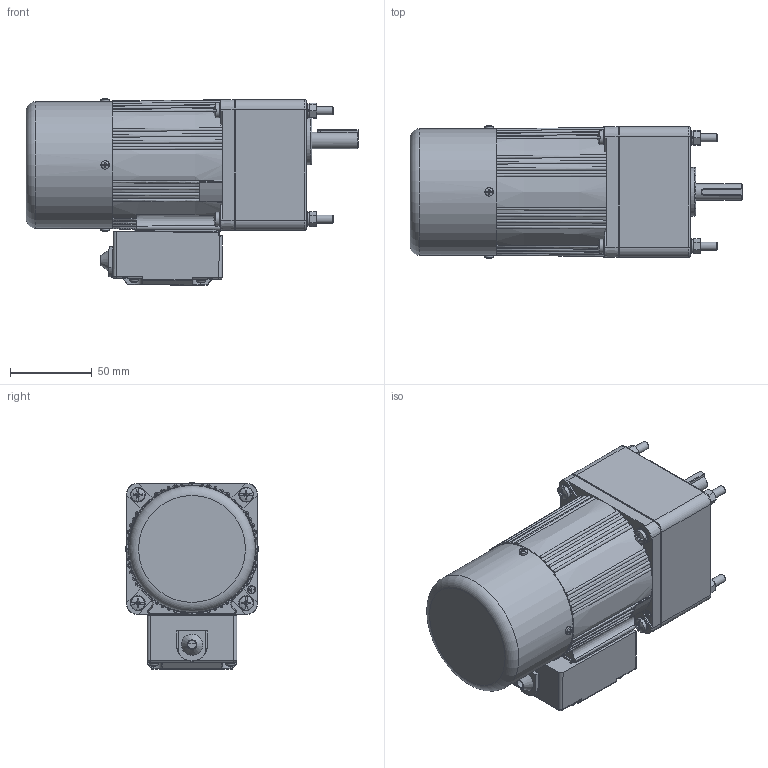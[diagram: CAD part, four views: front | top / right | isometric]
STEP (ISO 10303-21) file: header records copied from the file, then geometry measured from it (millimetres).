
FILE_DESCRIPTION(/* description */ (''),/* implementation_level */ '2;1');
FILE_NAME(/* name */ '4RK25-40GNC·TM-4GN25-750K-C·10T长款接线盒.stp',/* time_stamp */ '2025-04-13T15:33:26+08:00',/* author */ (''),/* organization */ (''),/* preprocessor_version */ 'ST-DEVELOPER v18.102',/* originating_system */ 'SIEMENS PLM Software NX 2027',/* authorisation */ '');
FILE_SCHEMA (('AP203_CONFIGURATION_CONTROLLED_3D_DESIGN_OF_MECHANICAL_PARTS_AND_ASSEMBLIES_MIM_LF { 1 0 10303 403 2 1 2}'));
Products named in the file (1): 4RK25-40CC·M-4GN25-750K-C·10T_stp_objects
Bounding box: 203.5 x 81.3 x 114.48 mm (x, y, z)
Volume: 951975.4 mm3; surface area: 130956.1 mm2
Topology: 20 solids, 20 shells, 1635 faces, 4244 edges, 2706 vertices
Faces by surface type: plane 662, cylinder 391, bspline 303, cone 143, torus 96, sphere 40
Full cylindrical faces by diameter (mm): 2.2 x2, 2.9 x4, 3.5 x2, 4 x1, 4.2 x1, 4.351 x4, 4.4 x1, 4.6 x4, 4.8 x1, 5 x5, 5.1 x4, 5.3 x8, 5.6 x4, 6 x10, 6.5 x4, 7 x1, 8 x1, 8.2 x1, 8.5 x4, 9 x8, 10 x3, 10.5 x1, 19 x1, 26 x1, 30 x1, 56 x1, 67 x1, 73 x1, 75 x2, 77.5 x1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
Entity records: 57226 total; most frequent: CARTESIAN_POINT 20863, ORIENTED_EDGE 7994, DIRECTION 6393, EDGE_CURVE 3997, VERTEX_POINT 2641, AXIS2_PLACEMENT_3D 2471, EDGE_LOOP 1922, ADVANCED_FACE 1632
